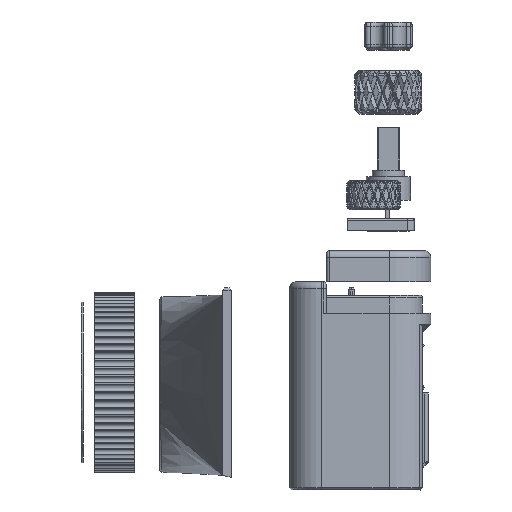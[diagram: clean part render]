
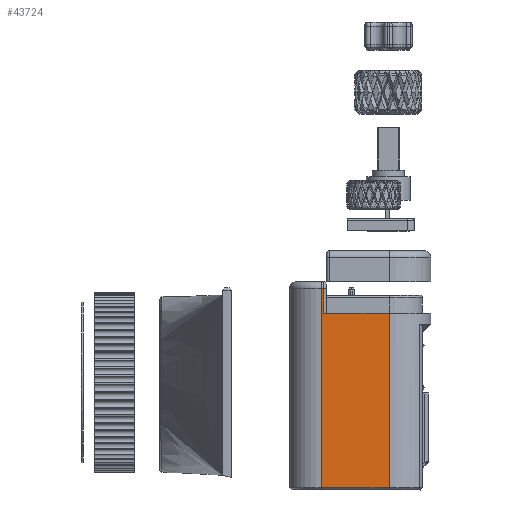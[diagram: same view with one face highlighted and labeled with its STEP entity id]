
A CAD part, front view. The second image highlights one B-rep face of the part: STEP entity #43724.
In plain terms, the highlighted planar face has unit normal (0, -1, 0).
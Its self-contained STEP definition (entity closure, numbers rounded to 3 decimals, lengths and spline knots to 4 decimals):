
#2680=PLANE('',#47579);
#6464=FACE_OUTER_BOUND('',#9091,.T.);
#9091=EDGE_LOOP('',(#38150,#38151,#38152,#38153,#38154,#38155));
#12763=LINE('',#72596,#16663);
#12774=LINE('',#72632,#16674);
#12775=LINE('',#72636,#16675);
#12776=LINE('',#72638,#16676);
#12777=LINE('',#72640,#16677);
#12778=LINE('',#72641,#16678);
#16663=VECTOR('',#57431,3.04);
#16674=VECTOR('',#57472,8.96);
#16675=VECTOR('',#57477,7.8413);
#16676=VECTOR('',#57478,2.84);
#16677=VECTOR('',#57479,1.1187);
#16678=VECTOR('',#57480,0.1);
#21069=VERTEX_POINT('',#72591);
#21070=VERTEX_POINT('',#72595);
#21080=VERTEX_POINT('',#72631);
#21081=VERTEX_POINT('',#72635);
#21082=VERTEX_POINT('',#72637);
#21083=VERTEX_POINT('',#72639);
#26940=EDGE_CURVE('',#21069,#21070,#12763,.T.);
#26958=EDGE_CURVE('',#21070,#21080,#12774,.T.);
#26960=EDGE_CURVE('',#21069,#21081,#12775,.T.);
#26961=EDGE_CURVE('',#21082,#21081,#12776,.T.);
#26962=EDGE_CURVE('',#21083,#21082,#12777,.T.);
#26963=EDGE_CURVE('',#21080,#21083,#12778,.T.);
#38150=ORIENTED_EDGE('',*,*,#26940,.F.);
#38151=ORIENTED_EDGE('',*,*,#26960,.T.);
#38152=ORIENTED_EDGE('',*,*,#26961,.F.);
#38153=ORIENTED_EDGE('',*,*,#26962,.F.);
#38154=ORIENTED_EDGE('',*,*,#26963,.F.);
#38155=ORIENTED_EDGE('',*,*,#26958,.F.);
#43724=ADVANCED_FACE('',(#6464),#2680,.T.);
#47579=AXIS2_PLACEMENT_3D('',#72634,#57475,#57476);
#57431=DIRECTION('',(-1.,0.,0.));
#57472=DIRECTION('',(0.,0.,1.));
#57475=DIRECTION('center_axis',(0.,-1.,0.));
#57476=DIRECTION('ref_axis',(1.,0.,0.));
#57477=DIRECTION('',(0.,0.,1.));
#57478=DIRECTION('',(1.,0.,0.));
#57479=DIRECTION('',(0.,0.,-1.));
#57480=DIRECTION('',(1.,0.,0.));
#72591=CARTESIAN_POINT('',(-6.9861,3.544,1.25));
#72595=CARTESIAN_POINT('',(-10.0261,3.544,1.25));
#72596=CARTESIAN_POINT('',(-7.4537,3.544,1.25));
#72631=CARTESIAN_POINT('',(-10.0261,3.544,10.21));
#72632=CARTESIAN_POINT('',(-10.0261,3.544,8.7913));
#72634=CARTESIAN_POINT('Origin',(-8.0913,3.544,8.7913));
#72635=CARTESIAN_POINT('',(-6.9861,3.544,9.0913));
#72636=CARTESIAN_POINT('',(-6.9861,3.544,8.5913));
#72637=CARTESIAN_POINT('',(-9.9261,3.544,9.0913));
#72638=CARTESIAN_POINT('',(-6.0086,3.544,9.0913));
#72639=CARTESIAN_POINT('',(-9.9261,3.544,10.21));
#72640=CARTESIAN_POINT('',(-9.9261,3.544,7.1833));
#72641=CARTESIAN_POINT('',(-10.1337,3.544,10.21));
